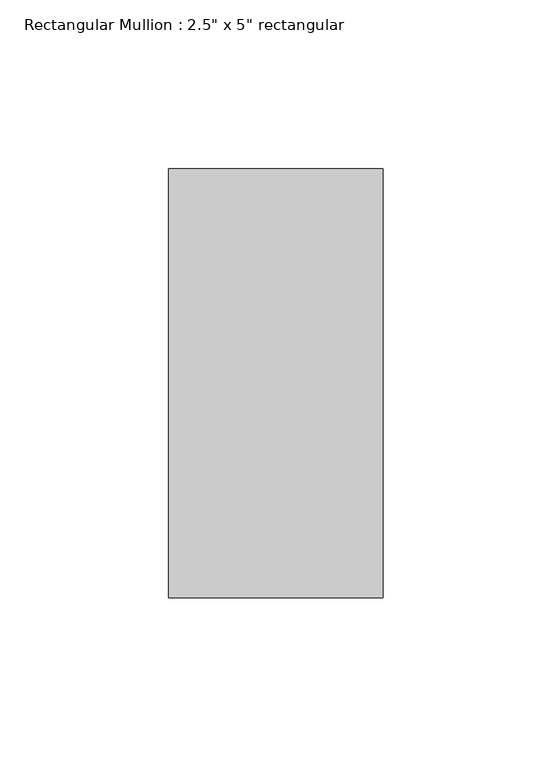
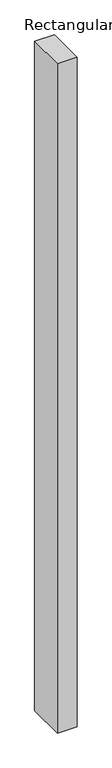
"""IFC4 building model written with IfcOpenShell, lengths in millimetres: member geometry."""

from ifc_helpers import new_model, si_unit, frame, origin, place, context, project, spatial, polyline, outline, extrude, source, transform, mapped, element, save


def member_ec9694ca(model_context):
    return source(origin(), model_context, "Body", "SweptSolid", [
        extrude(outline(polyline([(31.75, 63.5), (31.75, -63.5), (-31.75, -63.5), (-31.75, 63.5), (31.75, 63.5)])), frame((0.0, 0.0, -2286.5378469), z_axis=(0.0, 0.0, 1.0), x_axis=(1.0, 0.0, 0.0)), (0.0, 0.0, 1.0), 2286.5378469),
    ])


if __name__ == "__main__":
    model = new_model("IFC4")
    model_context = context("Model", 3, world=origin())
    ifc_project = project(units=[si_unit("LENGTHUNIT", "METRE", prefix="MILLI")], contexts=[model_context])
    site = spatial("IfcSite", under=ifc_project)
    building = spatial("IfcBuilding", under=site)
    placement = place(None, origin())
    member_shape = member_ec9694ca(model_context)
    element("IfcMember", 1, ObjectType="Rectangular Mullion : 2.5\" x 5\" rectangular", at=placement, inside=building, context=model_context, shape_type="MappedRepresentation", body=[
        mapped(member_shape, transform((0.0, 0.0, 0.0), x_axis=(1.0, 0.0, 0.0), y_axis=(0.0, 1.0, 0.0), z_axis=(0.0, 0.0, 1.0))),
    ])
    save(model, "model.ifc")
